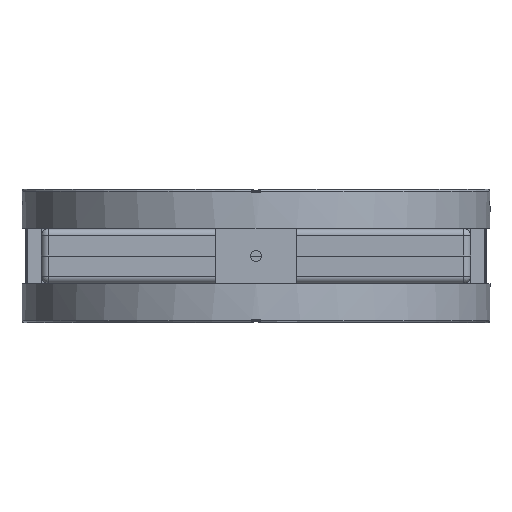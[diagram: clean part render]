
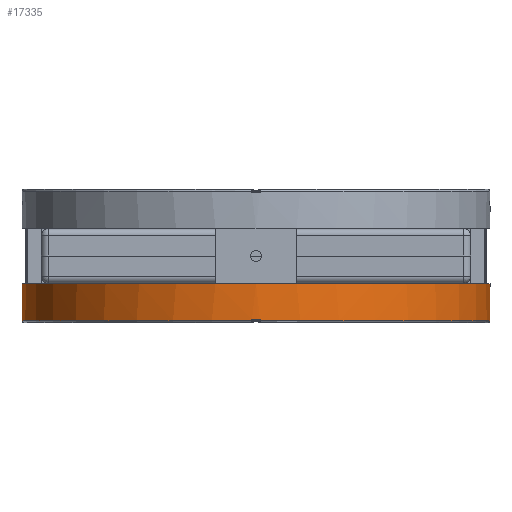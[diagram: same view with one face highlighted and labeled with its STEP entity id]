
A CAD part, front view. The second image highlights one B-rep face of the part: STEP entity #17335.
In plain terms, the highlighted cylindrical face has radius 175 mm (diameter 350 mm), a full revolution.
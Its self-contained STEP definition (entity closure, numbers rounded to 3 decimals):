
#12766=LINE('',#49955,#14297);
#12767=LINE('',#49959,#14298);
#12768=LINE('',#49960,#14299);
#12769=LINE('',#49964,#14300);
#14297=VECTOR('',#40617,1.);
#14298=VECTOR('',#40620,1.);
#14299=VECTOR('',#40621,1.);
#14300=VECTOR('',#40624,1.);
#15149=CYLINDRICAL_SURFACE('',#36067,175.);
#15866=FACE_BOUND('',#20772,.T.);
#15867=FACE_BOUND('',#20773,.T.);
#17335=ADVANCED_FACE('',(#15866,#15867),#15149,.T.);
#20772=EDGE_LOOP('',(#25228));
#20773=EDGE_LOOP('',(#25229,#25230,#25231,#25232,#25233,#25234,#25235,#25236));
#25228=ORIENTED_EDGE('',*,*,#32375,.F.);
#25229=ORIENTED_EDGE('',*,*,#32376,.F.);
#25230=ORIENTED_EDGE('',*,*,#32377,.T.);
#25231=ORIENTED_EDGE('',*,*,#32378,.T.);
#25232=ORIENTED_EDGE('',*,*,#32379,.T.);
#25233=ORIENTED_EDGE('',*,*,#32366,.F.);
#25234=ORIENTED_EDGE('',*,*,#32380,.T.);
#25235=ORIENTED_EDGE('',*,*,#32381,.T.);
#25236=ORIENTED_EDGE('',*,*,#32382,.T.);
#29457=VERTEX_POINT('',#49907);
#29458=VERTEX_POINT('',#49908);
#29466=VERTEX_POINT('',#49951);
#29467=VERTEX_POINT('',#49953);
#29468=VERTEX_POINT('',#49954);
#29469=VERTEX_POINT('',#49956);
#29470=VERTEX_POINT('',#49958);
#29471=VERTEX_POINT('',#49961);
#29472=VERTEX_POINT('',#49963);
#32366=EDGE_CURVE('',#29457,#29458,#34362,.T.);
#32375=EDGE_CURVE('',#29466,#29466,#34364,.T.);
#32376=EDGE_CURVE('',#29467,#29468,#34365,.T.);
#32377=EDGE_CURVE('',#29467,#29469,#12766,.T.);
#32378=EDGE_CURVE('',#29469,#29470,#34366,.T.);
#32379=EDGE_CURVE('',#29470,#29458,#12767,.T.);
#32380=EDGE_CURVE('',#29457,#29471,#12768,.T.);
#32381=EDGE_CURVE('',#29471,#29472,#34367,.T.);
#32382=EDGE_CURVE('',#29472,#29468,#12769,.T.);
#34362=CIRCLE('',#36060,175.);
#34364=CIRCLE('',#36063,175.);
#34365=CIRCLE('',#36064,175.);
#34366=CIRCLE('',#36065,175.);
#34367=CIRCLE('',#36066,175.);
#36060=AXIS2_PLACEMENT_3D('',#49906,#40605,#40606);
#36063=AXIS2_PLACEMENT_3D('',#49950,#40613,#40614);
#36064=AXIS2_PLACEMENT_3D('',#49952,#40615,#40616);
#36065=AXIS2_PLACEMENT_3D('',#49957,#40618,#40619);
#36066=AXIS2_PLACEMENT_3D('',#49962,#40622,#40623);
#36067=AXIS2_PLACEMENT_3D('',#49965,#40625,#40626);
#40605=DIRECTION('',(-1.,0.,0.));
#40606=DIRECTION('',(0.,-1.,0.));
#40613=DIRECTION('',(1.,0.,0.));
#40614=DIRECTION('',(0.,-1.,0.));
#40615=DIRECTION('',(-1.,0.,0.));
#40616=DIRECTION('',(0.,-1.,0.));
#40617=DIRECTION('',(-1.,0.,0.));
#40618=DIRECTION('',(1.,0.,0.));
#40619=DIRECTION('',(0.,1.,0.));
#40620=DIRECTION('',(1.,0.,0.));
#40621=DIRECTION('',(-1.,0.,0.));
#40622=DIRECTION('',(1.,0.,0.));
#40623=DIRECTION('',(0.,1.,0.));
#40624=DIRECTION('',(1.,0.,0.));
#40625=DIRECTION('',(1.,0.,0.));
#40626=DIRECTION('',(0.,-1.,0.));
#49906=CARTESIAN_POINT('',(-47.375,0.,526.));
#49907=CARTESIAN_POINT('',(-47.375,3.,351.026));
#49908=CARTESIAN_POINT('',(-47.375,-3.,351.026));
#49950=CARTESIAN_POINT('',(-20.575,0.,526.));
#49951=CARTESIAN_POINT('',(-20.575,-175.,526.));
#49952=CARTESIAN_POINT('',(-47.375,0.,526.));
#49953=CARTESIAN_POINT('',(-47.375,-3.,700.974));
#49954=CARTESIAN_POINT('',(-47.375,3.,700.974));
#49955=CARTESIAN_POINT('',(-20.575,-3.,700.974));
#49956=CARTESIAN_POINT('',(-48.375,-3.,700.974));
#49957=CARTESIAN_POINT('',(-48.375,0.,526.));
#49958=CARTESIAN_POINT('',(-48.375,-3.,351.026));
#49959=CARTESIAN_POINT('',(-20.575,-3.,351.026));
#49960=CARTESIAN_POINT('',(-20.575,3.,351.026));
#49961=CARTESIAN_POINT('',(-48.375,3.,351.026));
#49962=CARTESIAN_POINT('',(-48.375,0.,526.));
#49963=CARTESIAN_POINT('',(-48.375,3.,700.974));
#49964=CARTESIAN_POINT('',(-20.575,3.,700.974));
#49965=CARTESIAN_POINT('',(-20.575,0.,526.));
